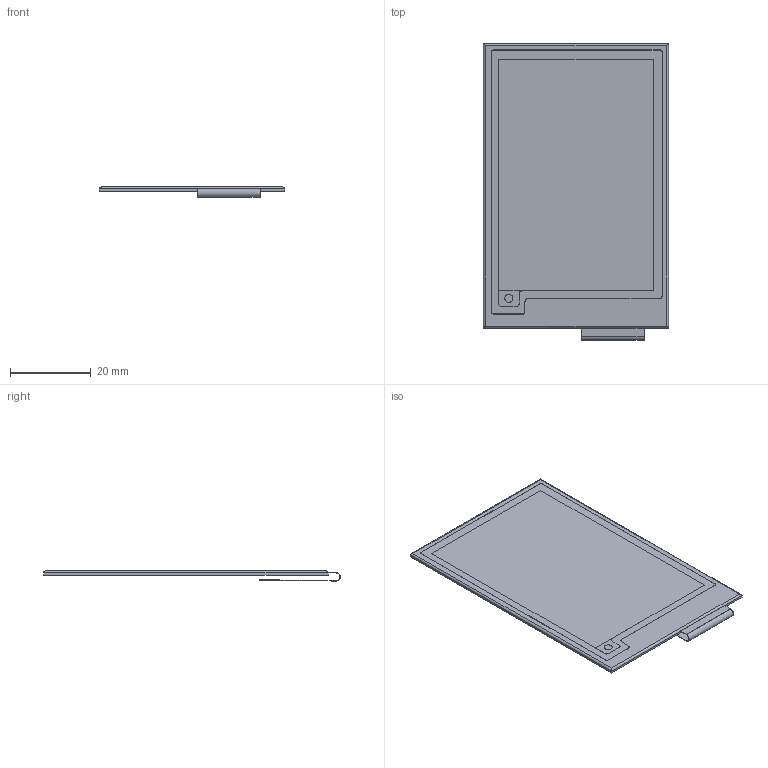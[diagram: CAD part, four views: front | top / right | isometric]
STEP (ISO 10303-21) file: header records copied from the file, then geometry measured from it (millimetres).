
FILE_DESCRIPTION (( 'STEP AP214' ), '1' );
FILE_NAME ('CFAP176264B0-0270_With_Flex_Tail_Minimum_Bend_Radius.STEP', '2019-07-23T19:23:55', ( '' ), ( '' ), 'SwSTEP 2.0', 'SolidWorks 2015', '' );
FILE_SCHEMA (( 'AUTOMOTIVE_DESIGN' ));
Length unit declared in the file: millimetre
Products named in the file (1): CFAP176264B0-0270_With_Flex_Tail_Minimum_Bend_Radius
Bounding box: 45.8 x 73.46 x 2.49 mm (x, y, z)
Volume: 3260.7 mm3; surface area: 7376.6 mm2
Topology: 3 solids, 3 shells, 184 faces, 452 edges, 300 vertices
Faces by surface type: plane 154, cylinder 24, torus 6
Entity records: 7051 total; most frequent: CARTESIAN_POINT 949, ORIENTED_EDGE 904, DIRECTION 870, EDGE_CURVE 452, LINE 396, VECTOR 396, VERTEX_POINT 300, AXIS2_PLACEMENT_3D 237
